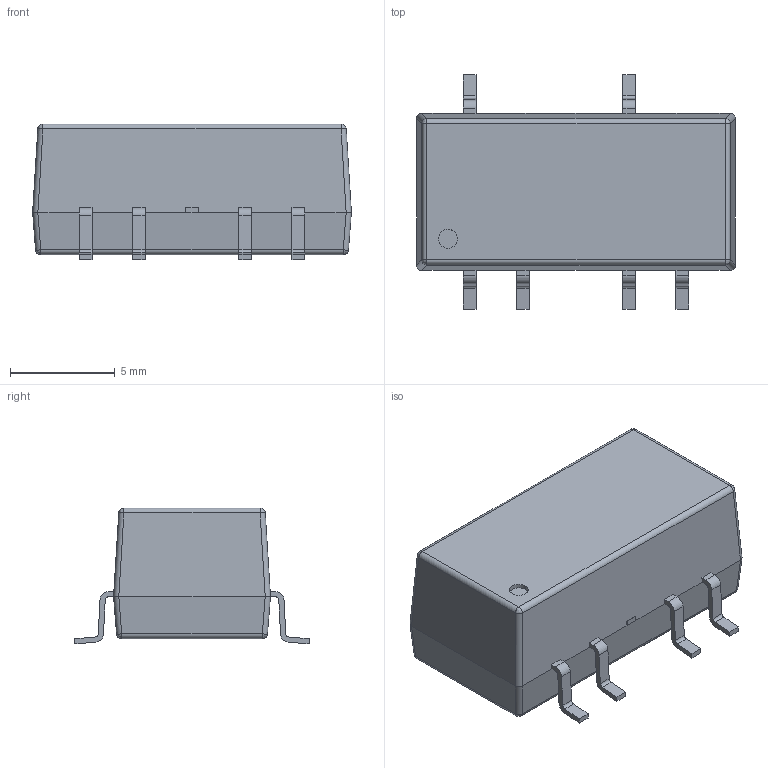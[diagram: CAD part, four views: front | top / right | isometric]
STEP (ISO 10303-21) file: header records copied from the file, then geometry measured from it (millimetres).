
FILE_DESCRIPTION((''),'2;1');
FILE_NAME('ISFXXXX-X','2017-11-01T',('eng706'),(''),'PRO/ENGINEER BY PARAMETRIC TECHNOLOGY CORPORATION, 2014000','PRO/ENGINEER BY PARAMETRIC TECHNOLOGY CORPORATION, 2014000','');
FILE_SCHEMA(('AUTOMOTIVE_DESIGN { 1 0 10303 214 1 1 1 1 }'));
Length unit declared in the file: millimetre
Products named in the file (1): ISFXXXX-X
Bounding box: 15.24 x 11.2 x 6.5 mm (x, y, z)
Volume: 684.4 mm3; surface area: 516.9 mm2
Topology: 1 solids, 1 shells, 131 faces, 340 edges, 204 vertices
Faces by surface type: plane 81, cylinder 42, bspline 8
Entity records: 5838 total; most frequent: CARTESIAN_POINT 1210, ORIENTED_EDGE 664, DIRECTION 648, PRESENTATION_STYLE_ASSIGNMENT 371, STYLED_ITEM 333, CURVE_STYLE 332, EDGE_CURVE 332, VECTOR 252
